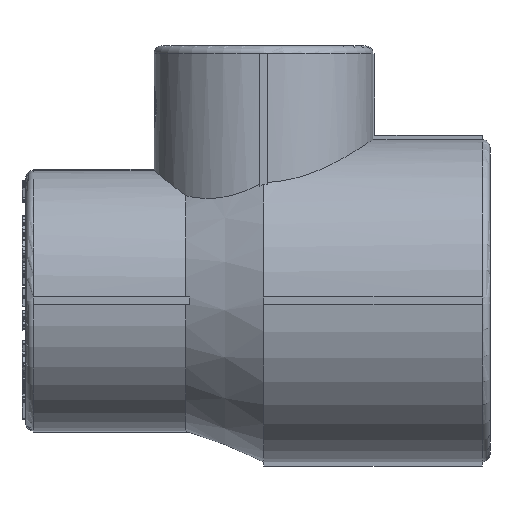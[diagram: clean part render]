
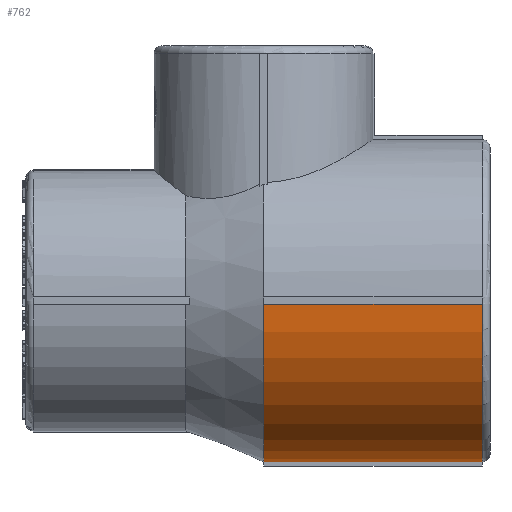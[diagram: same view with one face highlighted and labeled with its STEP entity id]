
A CAD part, left-side view. The second image highlights one B-rep face of the part: STEP entity #762.
In plain terms, the highlighted cylindrical face has radius 21.35 mm (diameter 42.7 mm), a partial arc.
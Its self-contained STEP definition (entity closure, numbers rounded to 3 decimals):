
#762=ADVANCED_FACE('',(#5890),#5892,.T.);
#5890=FACE_BOUND('',#5891,.T.);
#5891=EDGE_LOOP('',(#14505,#14506,#14507,#14508));
#5892=CYLINDRICAL_SURFACE('',#5893,21.35);
#5893=AXIS2_PLACEMENT_3D('',#5894,#5895,#5896);
#5894=CARTESIAN_POINT('',(0.,0.,0.));
#5895=DIRECTION('',(0.,-1.,0.));
#5896=DIRECTION('',(1.,0.,0.));
#14505=ORIENTED_EDGE('',*,*,#20213,.F.);
#14506=ORIENTED_EDGE('',*,*,#20214,.F.);
#14507=ORIENTED_EDGE('',*,*,#20215,.F.);
#14508=ORIENTED_EDGE('',*,*,#20174,.F.);
#20174=EDGE_CURVE('',#24906,#24908,#24909,.F.);
#20213=EDGE_CURVE('',#24971,#24906,#24972,.F.);
#20214=EDGE_CURVE('',#24973,#24971,#24974,.T.);
#20215=EDGE_CURVE('',#24908,#24973,#24975,.T.);
#24906=VERTEX_POINT('',#34843);
#24908=VERTEX_POINT('',#34848);
#24909=CIRCLE('',#34849,21.35);
#24971=VERTEX_POINT('',#35121);
#24972=LINE('',#35122,#35123);
#24973=VERTEX_POINT('',#35125);
#24974=CIRCLE('',#35126,21.35);
#24975=LINE('',#35130,#35131);
#34843=CARTESIAN_POINT('',(-0.5,0.,-21.344));
#34848=CARTESIAN_POINT('',(-21.344,0.,-0.5));
#34849=AXIS2_PLACEMENT_3D('',#34850,#34851,#34852);
#34850=CARTESIAN_POINT('',(0.,0.,0.));
#34851=DIRECTION('',(0.,-1.,0.));
#34852=DIRECTION('',(-1.,0.,-0.023));
#35121=CARTESIAN_POINT('',(-0.5,-29.,-21.344));
#35122=CARTESIAN_POINT('',(-0.5,0.,-21.344));
#35123=VECTOR('',#35124,1.);
#35124=DIRECTION('',(0.,-1.,0.));
#35125=CARTESIAN_POINT('',(-21.344,-29.,-0.5));
#35126=AXIS2_PLACEMENT_3D('',#35127,#35128,#35129);
#35127=CARTESIAN_POINT('',(0.,-29.,0.));
#35128=DIRECTION('',(0.,-1.,0.));
#35129=DIRECTION('',(-1.,0.,-0.023));
#35130=CARTESIAN_POINT('',(-21.344,0.,-0.5));
#35131=VECTOR('',#35132,1.);
#35132=DIRECTION('',(0.,-1.,0.));
